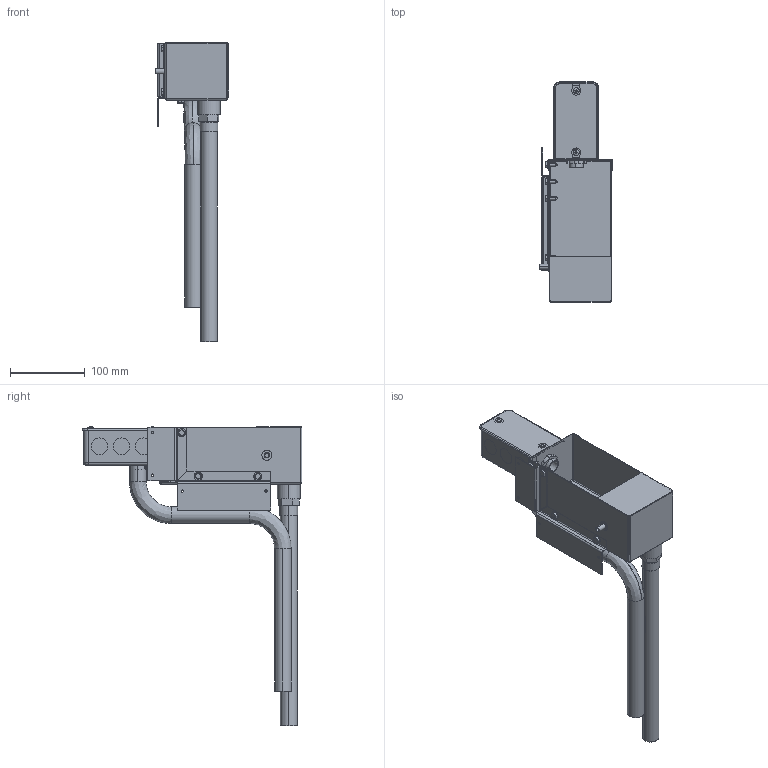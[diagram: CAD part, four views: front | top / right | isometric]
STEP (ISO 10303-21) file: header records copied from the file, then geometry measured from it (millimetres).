
FILE_DESCRIPTION (( 'STEP AP214' ), '1' );
FILE_NAME ('QCDS48H.STEP', '2016-07-14T18:10:17', ( 'BMC' ), ( 'Bard Manufacturing Co., Inc.' ), 'SwSTEP 2.0', 'SolidWorks 2016', '' );
FILE_SCHEMA (( 'AUTOMOTIVE_DESIGN' ));
Length unit declared in the file: inch
Products named in the file (16): 8611-047; QCDS48H; 814-0321; 122-106; weld coupling; weld bead; 18140323; stub; electrical box; 1012-086; 146-051; X34-0210-0304; blank cover; chase nipple; locking nut; 1012-065, panhead screw
Assembly tree (21 placements, depth 2):
  QCDS48H
    814-0321
    122-106
    weld coupling
    weld bead  x2
    18140323
    stub
    electrical box
    1012-086  x5
    146-051
    X34-0210-0304
    blank cover
    chase nipple
    locking nut
    1012-065, panhead screw  x2
    8611-047
Bounding box: 97.97 x 293.81 x 399.37 mm (x, y, z)
Surface area: 319844.1 mm2 (no closed solid volume)
Topology: 0 solids, 21 shells, 519 faces, 1319 edges, 861 vertices
Faces by surface type: plane 255, cylinder 228, bspline 18, cone 16, sphere 2
Entity records: 14022 total; most frequent: CARTESIAN_POINT 2639, DIRECTION 2385, ORIENTED_EDGE 2178, EDGE_CURVE 1089, AXIS2_PLACEMENT_3D 886, VERTEX_POINT 718, VECTOR 613, LINE 613
